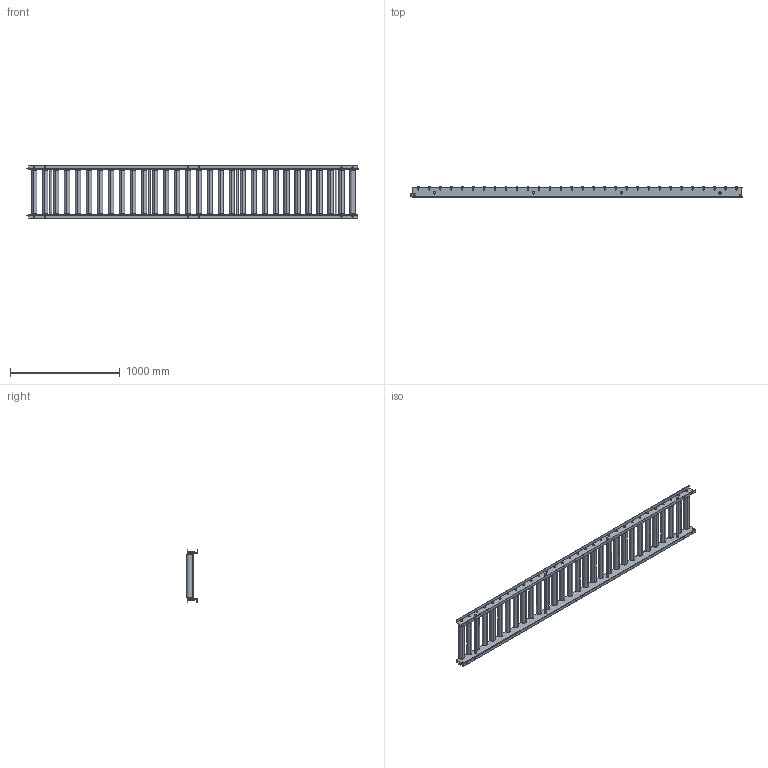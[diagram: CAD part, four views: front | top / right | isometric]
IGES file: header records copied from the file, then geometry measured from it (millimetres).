
Start section: SolidWorks IGES file using analytic representation for surfaces
Global section: file name: C:\Users\0656\Desktop\変換ツール\iges変換\R-4814NB.igs; native system: SolidWorks 2023; preprocessor: SolidWorks 2023; author: 0656; date: 240220.170032; units: millimetre
Bounding box: 3025 x 95.8 x 475 mm (x, y, z)
Surface area: 5225115.1 mm2 (no closed solid volume)
Topology: 0 solids, 0 shells, 1280 faces, 26148 edges, 26148 vertices
Faces by surface type: revolution 670, bspline 610
